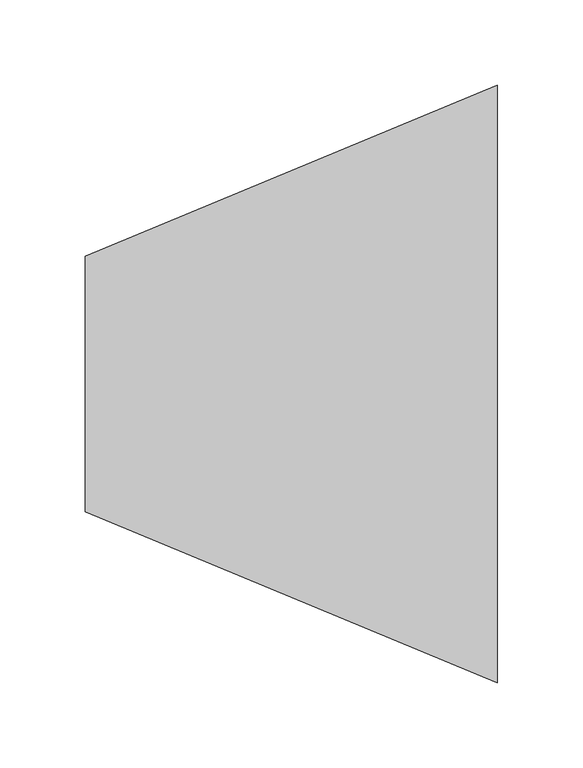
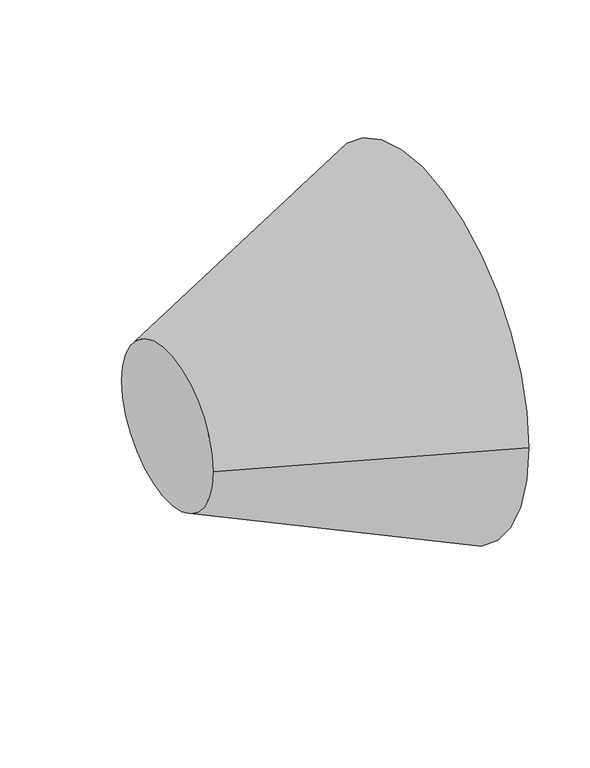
"""IFC4 building model written with IfcOpenShell, lengths in millimetres: duct fitting geometry, M_Transición redonda - Ángulo : EXT_45 graus."""

from ifc_helpers import new_model, si_unit, frame, origin, place, context, project, spatial, polyline, circle_curve, source, transform, mapped, element, save
from ifc_brep_helpers import plane_surface, revolved_surface, advanced_brep


def duct_fitting_79ab32e3(model_context):
    return source(origin(), model_context, "Body", "AdvancedBrep", [
        advanced_brep(
        [(241.4213562, -175.0, 0.0), (241.4213562, 175.0, 0.0), (0.0, -75.0, 0.0), (0.0, 75.0, 0.0)],
        [
            (0, 1, circle_curve(frame((241.4213562, 0.0, 0.0), z_axis=(1.0, 0.0, 0.0), x_axis=(0.0, -1.0, 0.0)), 175.0)),
            (1, 0, circle_curve(frame((241.4213562, 0.0, 0.0), z_axis=(1.0, 0.0, 0.0), x_axis=(0.0, 1.0, 0.0)), 175.0)),
            (2, 3, circle_curve(frame((0.0, 0.0, 0.0), z_axis=(-1.0, 0.0, 0.0), x_axis=(0.0, 1.0, 0.0)), 75.0)),
            (3, 2, circle_curve(frame((0.0, 0.0, 0.0), z_axis=(-1.0, 0.0, 0.0), x_axis=(0.0, -1.0, 0.0)), 75.0)),
            (3, 1),
            (0, 2),
        ],
        [
            plane_surface(frame((241.4213562, 0.0, 0.0), z_axis=(1.0, 0.0, 0.0), x_axis=(0.0, 0.0, -1.0))),
            plane_surface(frame((0.0, 0.0, 0.0), z_axis=(-1.0, 0.0, 0.0), x_axis=(0.0, 0.0, -1.0))),
            revolved_surface(polyline([(0.0, 75.00000001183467, 0.0), (241.42135620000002, 175.0, 0.0)]), (-181.0660172, 0.0, 0.0), (1.0, 0.0, 0.0)),
            revolved_surface(polyline([(0.0, -75.00000001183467, 0.0), (241.42135620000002, -175.0, 0.0)]), (-181.0660172, 0.0, 0.0), (1.0, 0.0, 0.0)),
        ],
        [
            (0, [[1, 2]]),
            (1, [[3, 4]]),
            (2, [[-4, 5, -1, 6]]),
            (3, [[-3, -6, -2, -5]]),
        ],
    ),
    ])


if __name__ == "__main__":
    model = new_model("IFC4")
    model_context = context("Model", 3, world=origin())
    ifc_project = project(units=[si_unit("LENGTHUNIT", "METRE", prefix="MILLI")], contexts=[model_context])
    site = spatial("IfcSite", under=ifc_project)
    building = spatial("IfcBuilding", under=site)
    placement = place(None, origin())
    duct_fitting_shape = duct_fitting_79ab32e3(model_context)
    element("IfcDuctFitting", 1, ObjectType="M_Transición redonda - Ángulo : EXT_45 graus", at=placement, inside=building, context=model_context, shape_type="MappedRepresentation", body=[
        mapped(duct_fitting_shape, transform((0.0, 0.0, 0.0), x_axis=(1.0, 0.0, 0.0), y_axis=(0.0, 1.0, 0.0), z_axis=(0.0, 0.0, 1.0))),
    ])
    save(model, "model.ifc")
